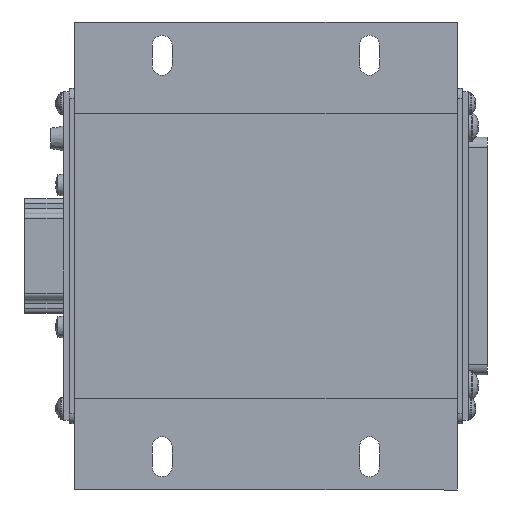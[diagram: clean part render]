
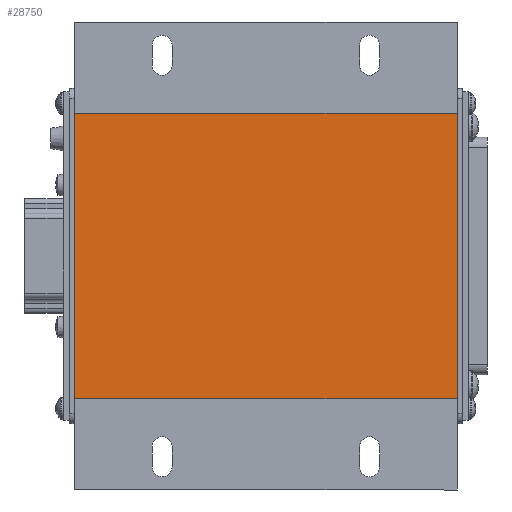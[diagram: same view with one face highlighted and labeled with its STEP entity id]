
A CAD part, front view. The second image highlights one B-rep face of the part: STEP entity #28750.
In plain terms, the highlighted planar face has unit normal (0, -1, 0).
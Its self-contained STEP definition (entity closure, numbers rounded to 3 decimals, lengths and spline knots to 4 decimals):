
#2364=LINE($,#49896,#4344);
#2468=LINE($,#52129,#4448);
#2509=LINE($,#52248,#4489);
#2510=LINE($,#52250,#4490);
#4344=VECTOR($,#38693,3.5827);
#4448=VECTOR($,#39467,3.5827);
#4489=VECTOR($,#39572,4.8);
#4490=VECTOR($,#39575,4.8);
#7603=FACE_OUTER_BOUND($,#9989,.T.);
#9989=EDGE_LOOP($,(#24978,#24979,#24980,#24981));
#13535=VERTEX_POINT($,#49892);
#13536=VERTEX_POINT($,#49894);
#13843=VERTEX_POINT($,#52125);
#13844=VERTEX_POINT($,#52127);
#17087=EDGE_CURVE($,#13536,#13535,#2364,.T.);
#17544=EDGE_CURVE($,#13844,#13843,#2468,.T.);
#17606=EDGE_CURVE($,#13535,#13844,#2509,.T.);
#17607=EDGE_CURVE($,#13536,#13843,#2510,.T.);
#24978=ORIENTED_EDGE($,*,*,#17544,.F.);
#24979=ORIENTED_EDGE($,*,*,#17606,.F.);
#24980=ORIENTED_EDGE($,*,*,#17087,.F.);
#24981=ORIENTED_EDGE($,*,*,#17607,.T.);
#26210=PLANE($,#31746);
#28750=ADVANCED_FACE($,(#7603),#26210,.T.);
#31746=AXIS2_PLACEMENT_3D($,#52249,#39573,#39574);
#38693=DIRECTION($,(0.,0.,-1.));
#39467=DIRECTION($,(0.,0.,1.));
#39572=DIRECTION($,(-1.,0.,0.));
#39573=DIRECTION('center_axis',(0.,-1.,0.));
#39574=DIRECTION('ref_axis',(1.,0.,0.));
#39575=DIRECTION($,(-1.,0.,0.));
#49892=CARTESIAN_POINT('',(2.445,-0.5185,-1.7913));
#49894=CARTESIAN_POINT('',(2.445,-0.5185,1.7914));
#49896=CARTESIAN_POINT($,(2.445,-0.5185,0.8959));
#52125=CARTESIAN_POINT('',(-2.355,-0.5185,1.7914));
#52127=CARTESIAN_POINT('',(-2.355,-0.5185,-1.7913));
#52129=CARTESIAN_POINT($,(-2.355,-0.5185,0.8959));
#52248=CARTESIAN_POINT($,(0.045,-0.5185,-1.7913));
#52249=CARTESIAN_POINT('Origin',(0.045,-0.5185,1.7914));
#52250=CARTESIAN_POINT($,(0.045,-0.5185,1.7914));
